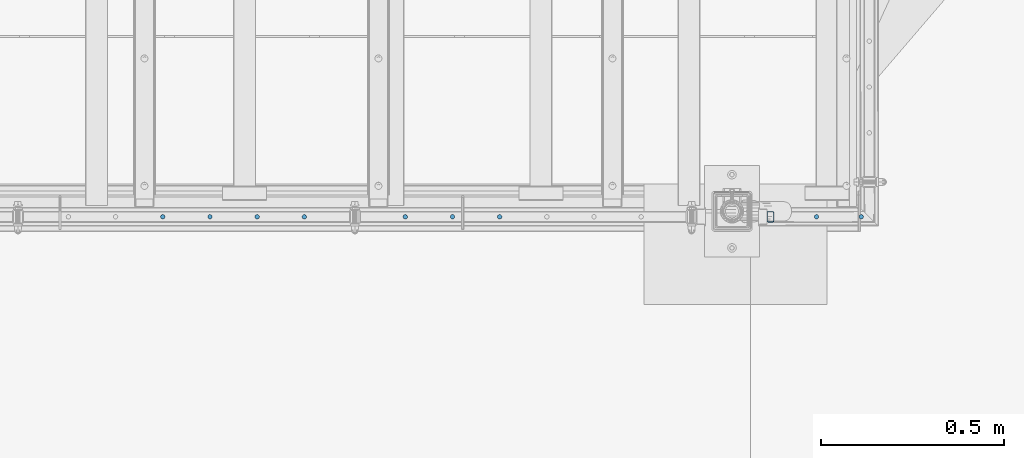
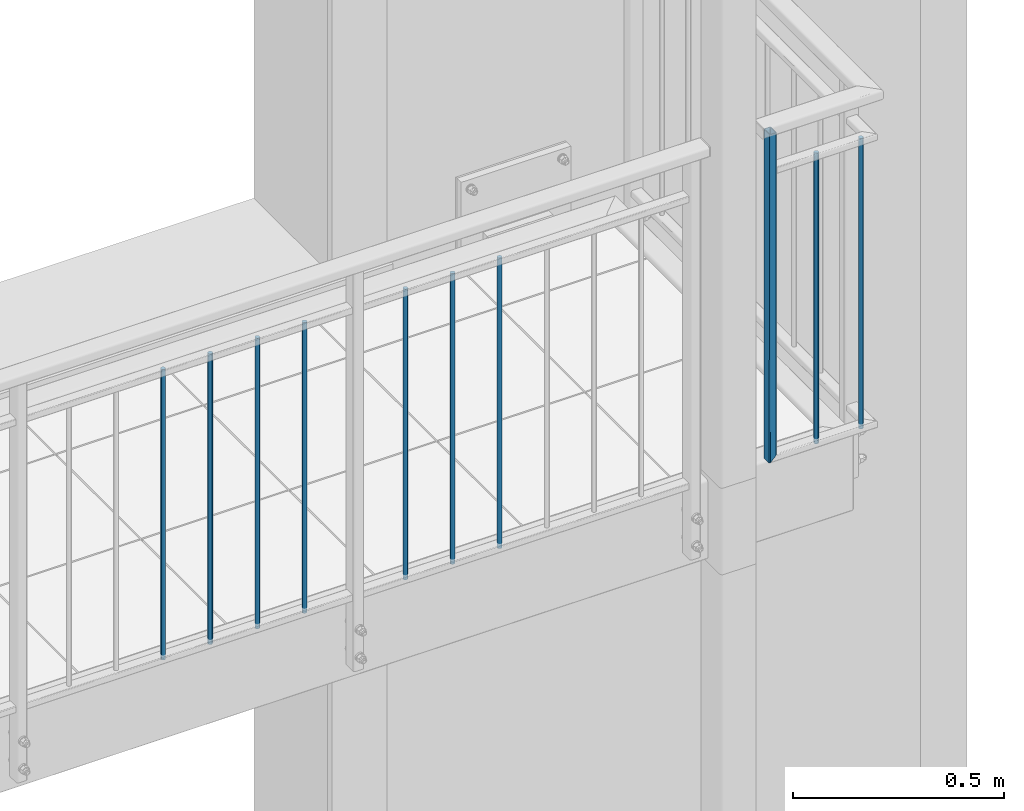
# One storey, part 26 of 162: 10 columns, 1 opening.
"""IFC2X3 building model written with IfcOpenShell, lengths in millimetres."""

from ifc_helpers import new_model, entity, si_unit, converted_unit, frame, origin, origin_with_axes, origin_2d, origin_2d_with_axis, place, context, project, spatial, hollow_rectangle, circle, extrude, clip, halfspace, material, element, save


model = new_model("IFC2X3")

# Units and contexts
model_context = context("Model", 3, precision=1e-09, world=origin_with_axes())
ifc_project = project(units=[si_unit("LENGTHUNIT", "METRE", prefix="MILLI"), si_unit("AREAUNIT", "SQUARE_METRE"), si_unit("VOLUMEUNIT", "CUBIC_METRE"), converted_unit("PLANEANGLEUNIT", "DEGREE", entity("IfcPlaneAngleMeasure", 0.01745329), si_unit("PLANEANGLEUNIT", "RADIAN"), dimensions=[0, 0, 0, 0, 0, 0, 0])], contexts=[model_context])

# Site, building, storey
site_placement = place(None, origin_with_axes())
site = spatial("IfcSite", under=ifc_project, at=site_placement, Name="Hermannstra?e 1a, 60318 Frankfurt", CompositionType="ELEMENT")
building_placement = place(site_placement, origin_with_axes())
building = spatial("IfcBuilding", under=site, at=building_placement, Name="Struktur 1", CompositionType="ELEMENT")
storey_placement = place(building_placement, origin_with_axes())
storey = spatial("IfcBuildingStorey", under=building, at=storey_placement, Name="Default Storey", CompositionType="ELEMENT", Elevation=0.0)

# Column
ifc_material = material(Name="S235JR")
column_1_placement = place(None, frame((5704.30936482, 1515.609373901, 3980.0), z_axis=(0.0, 0.0, 1.0), x_axis=(-1.0, 0.0, 0.0)))
element("IfcColumn", 1, at=column_1_placement, inside=storey, material=ifc_material, Name="-", ObjectType="-", context=model_context, shape_type="SweptSolid", body=[
    extrude(circle(Radius=6.0, at=origin_2d()), origin(), (0.0, 0.0, 1.0), 840.0),
])

# Column, opening
column_2_placement = place(None, frame((5578.30936482, 1515.609373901, 4925.0), z_axis=(0.0, 0.0, -1.0), x_axis=(1.0, 0.0, 0.0)))
column_2 = element("IfcColumn", 2, at=column_2_placement, inside=storey, material=ifc_material, Name="-", ObjectType="-", context=model_context, shape_type="Clipping", body=[
    clip(extrude(hollow_rectangle(XDim=20.0, YDim=30.0, WallThickness=2.0, InnerFilletRadius=2.0, OuterFilletRadius=4.0, at=origin_2d()), origin(), (0.0, 0.0, 1.0), 965.495097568), halfspace(frame((-4781.655389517, 1515.609373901, 5721.653975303), z_axis=(-0.707106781, 0.0, -0.707106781), x_axis=(0.0, 1.0, 0.0)), True)),
])
opening_placement = place(column_2_placement, frame((7.5, 0.0, 110.0), z_axis=(1.0, 0.0, 0.0), x_axis=(0.0, -1.0, 0.0)))
element("IfcOpeningElement", 3, at=opening_placement, cuts=column_2, ObjectType="Opening", context=model_context, shape_type="SweptSolid", body=[
    extrude(circle(Radius=5.001, at=origin_2d_with_axis()), origin(), (0.0, 0.0, 1.0), 3.0),
])

# Columns
column_3_placement = place(None, frame((5826.30936482, 1515.609373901, 3980.0), z_axis=(0.0, 0.0, 1.0), x_axis=(-1.0, 0.0, 0.0)))
element("IfcColumn", 4, at=column_3_placement, inside=storey, material=ifc_material, Name="-", ObjectType="-", context=model_context, shape_type="SweptSolid", body=[
    extrude(circle(Radius=6.0, at=origin_2d()), origin(), (0.0, 0.0, 1.0), 840.0),
])
for number, where, z_axis, x_axis in (
    (5, (3918.880793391, 1515.609373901, 3980.0), (0.0, 0.0, -1.0), (1.0, 0.0, 0.0)),
    (6, (4047.737936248, 1515.609373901, 3980.0), (0.0, 0.0, -1.0), (1.0, 0.0, 0.0)),
    (7, (4176.595079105, 1515.609373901, 3980.0), (0.0, 0.0, -1.0), (1.0, 0.0, 0.0)),
    (8, (4305.452221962, 1515.609373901, 3980.0), (0.0, 0.0, -1.0), (1.0, 0.0, 0.0)),
    (9, (4581.166507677, 1515.609373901, 3980.0), (0.0, 0.0, -1.0), (1.0, 0.0, 0.0)),
    (10, (4710.023650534, 1515.609373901, 3980.0), (0.0, 0.0, -1.0), (1.0, 0.0, 0.0)),
    (11, (4838.880793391, 1515.609373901, 3980.0), (0.0, 0.0, -1.0), (1.0, 0.0, 0.0)),
):
    element("IfcColumn", number, at=place(None, frame(where, z_axis=z_axis, x_axis=x_axis)), inside=storey, material=ifc_material, Name="-", ObjectType="-", context=model_context, shape_type="SweptSolid", body=[
        extrude(circle(Radius=6.0, at=origin_2d()), origin(), (0.0, 0.0, -1.0), 840.0),
    ])

save(model, "model.ifc")
